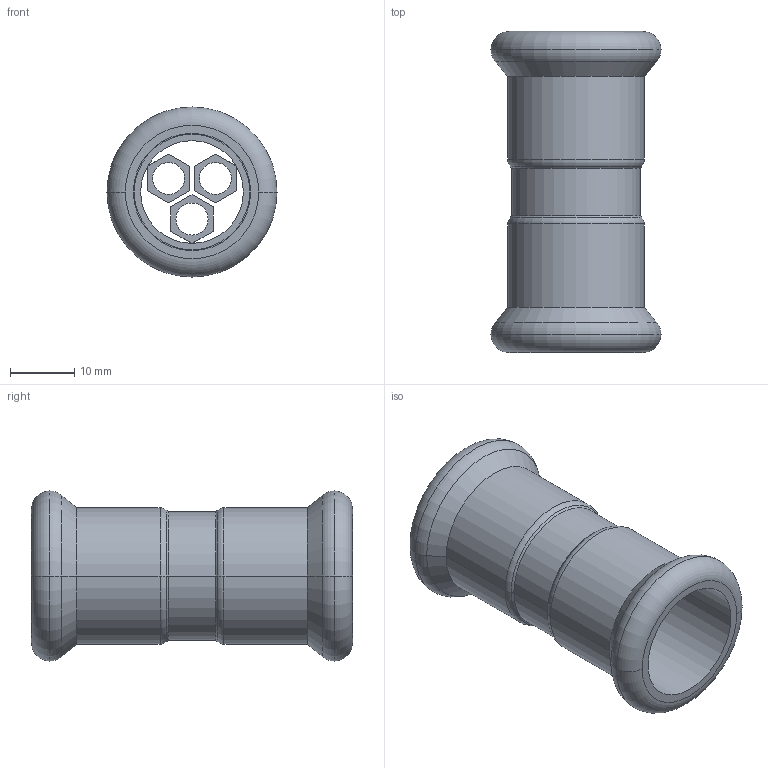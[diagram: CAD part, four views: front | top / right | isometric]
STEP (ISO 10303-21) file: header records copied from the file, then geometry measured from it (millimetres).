
FILE_DESCRIPTION(('OneSpaceDesigner STEP Export'),'2;1');
FILE_NAME('R2701 18x18.stp','2010-06-08T13:05:57',(''),(''),'OneSpace Designer STEP processor for AP214 (Solid Model)','OneSpace Modeling 15.00A 14-Mar-2007 (C) CoCreate Software GmbH','');
FILE_SCHEMA(('AUTOMOTIVE_DESIGN { 1 0 10303 214 1 1 1 1 }'));
Length unit declared in the file: millimetre
Products named in the file (2): R2701_18x18
Assembly tree (1 placements, depth 2):
  R2701_18x18
    R2701_18x18
Bounding box: 26.5 x 50 x 26.5 mm (x, y, z)
Volume: 6962.6 mm3; surface area: 7714.9 mm2
Topology: 1 solids, 1 shells, 114 faces, 282 edges, 180 vertices
Faces by surface type: plane 60, cylinder 34, torus 12, cone 8
Entity records: 3075 total; most frequent: ORIENTED_EDGE 564, CARTESIAN_POINT 502, DIRECTION 470, EDGE_CURVE 282, VERTEX_POINT 180, VECTOR 174, LINE 174, AXIS2_PLACEMENT_3D 148
